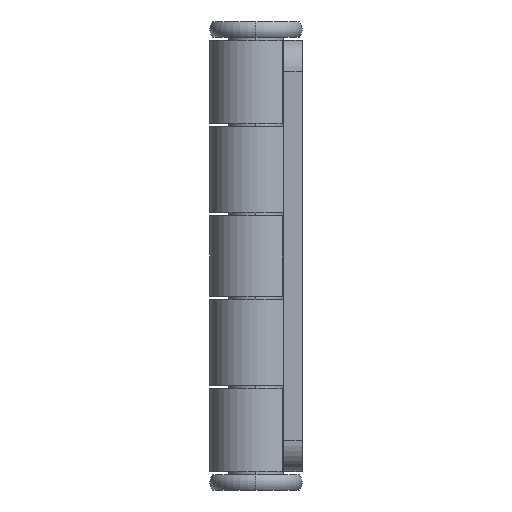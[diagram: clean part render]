
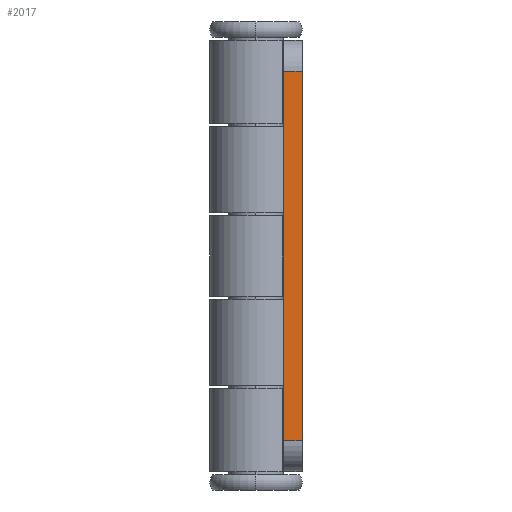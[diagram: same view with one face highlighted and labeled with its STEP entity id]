
A CAD part, left-side view. The second image highlights one B-rep face of the part: STEP entity #2017.
In plain terms, the highlighted planar face has unit normal (-1, 0, 0).
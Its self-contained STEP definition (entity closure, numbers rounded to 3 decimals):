
#21 = FACE_OUTER_BOUND ( 'NONE', #2465, .T. ) ;
#103 = ORIENTED_EDGE ( 'NONE', *, *, #1283, .T. ) ;
#131 = LINE ( 'NONE', #2528, #1224 ) ;
#160 = VERTEX_POINT ( 'NONE', #2036 ) ;
#236 = CARTESIAN_POINT ( 'NONE',  ( -34., -3., -30. ) ) ;
#333 = CARTESIAN_POINT ( 'NONE',  ( -34., -3., -30. ) ) ;
#432 = VERTEX_POINT ( 'NONE', #333 ) ;
#455 = CARTESIAN_POINT ( 'NONE',  ( -34., 0., 35. ) ) ;
#508 = CARTESIAN_POINT ( 'NONE',  ( -34., -3., 35. ) ) ;
#717 = VECTOR ( 'NONE', #2324, 1000. ) ;
#750 = ORIENTED_EDGE ( 'NONE', *, *, #1669, .T. ) ;
#791 = LINE ( 'NONE', #1631, #2335 ) ;
#802 = AXIS2_PLACEMENT_3D ( 'NONE', #508, #912, #2384 ) ;
#848 = DIRECTION ( 'NONE',  ( 0., 0., 1. ) ) ;
#912 = DIRECTION ( 'NONE',  ( -1., 0., 0. ) ) ;
#1169 = ORIENTED_EDGE ( 'NONE', *, *, #2458, .F. ) ;
#1199 = LINE ( 'NONE', #455, #717 ) ;
#1224 = VECTOR ( 'NONE', #848, 1000. ) ;
#1228 = CARTESIAN_POINT ( 'NONE',  ( -34., 0., 30. ) ) ;
#1283 = EDGE_CURVE ( 'NONE', #2288, #432, #2372, .T. ) ;
#1631 = CARTESIAN_POINT ( 'NONE',  ( -34., -3., 30. ) ) ;
#1669 = EDGE_CURVE ( 'NONE', #160, #2579, #791, .T. ) ;
#1707 = DIRECTION ( 'NONE',  ( 0., -1., 0. ) ) ;
#1726 = ORIENTED_EDGE ( 'NONE', *, *, #2688, .T. ) ;
#1759 = PLANE ( 'NONE',  #802 ) ;
#1818 = VECTOR ( 'NONE', #1707, 1000. ) ;
#1837 = DIRECTION ( 'NONE',  ( 0., 1., 0. ) ) ;
#2017 = ADVANCED_FACE ( 'NONE', ( #21 ), #1759, .T. ) ;
#2036 = CARTESIAN_POINT ( 'NONE',  ( -34., -3., 30. ) ) ;
#2067 = CARTESIAN_POINT ( 'NONE',  ( -34., 0., -30. ) ) ;
#2288 = VERTEX_POINT ( 'NONE', #2067 ) ;
#2324 = DIRECTION ( 'NONE',  ( 0., 0., 1. ) ) ;
#2335 = VECTOR ( 'NONE', #1837, 1000. ) ;
#2372 = LINE ( 'NONE', #236, #1818 ) ;
#2384 = DIRECTION ( 'NONE',  ( 0., 0., 1. ) ) ;
#2458 = EDGE_CURVE ( 'NONE', #2288, #2579, #1199, .T. ) ;
#2465 = EDGE_LOOP ( 'NONE', ( #1169, #103, #1726, #750 ) ) ;
#2528 = CARTESIAN_POINT ( 'NONE',  ( -34., -3., 35. ) ) ;
#2579 = VERTEX_POINT ( 'NONE', #1228 ) ;
#2688 = EDGE_CURVE ( 'NONE', #432, #160, #131, .T. ) ;
